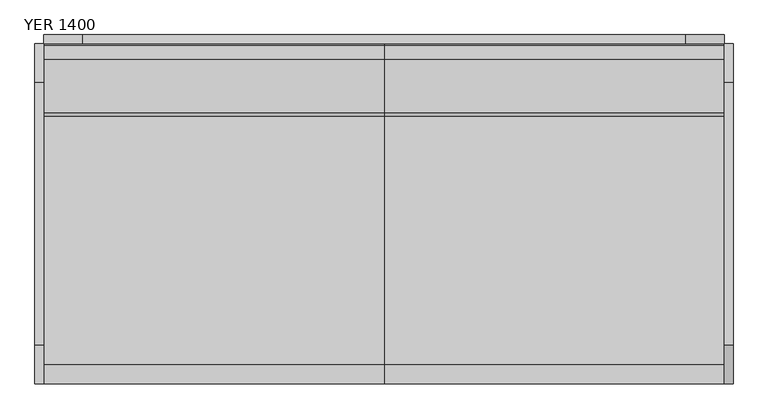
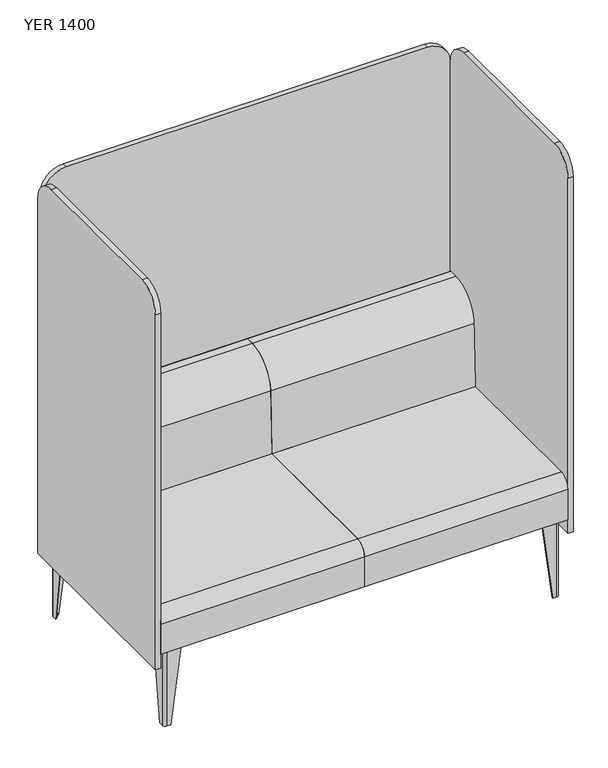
"""IFC4 building model written with IfcOpenShell, lengths in millimetres: furniture geometry, Mobiliário_Mobiliário de Escritório_LinhaYoung_Enclosure (Aço) - YER_Marelli : YER 1400."""

from ifc_helpers import new_model, si_unit, point, frame, frame_2d, origin, origin_with_axes, place, context, project, spatial, polyline, circle_curve, trimmed, segment, composite_curve, outline, extrude, source, transform, mapped, element, save
from ifc_brep_helpers import plane_surface, cylinder_surface, revolved_surface, advanced_brep


def yer_1400_89e6360d(model_context):
    return source(origin(), model_context, "Body", "SolidModel", [
        advanced_brep(
        [(20.0, 75.0, 280.0), (20.0, 25.0, 280.0), (30.0, 15.0, 280.0), (80.0, 15.0, 280.0), (80.0, 18.0, 280.0), (30.0, 18.0, 280.0), (23.0, 25.0, 280.0), (23.0, 75.0, 280.0), (20.0, 39.0, 0.0), (23.0, 39.0, 0.0), (23.0, 25.0, 0.0), (30.0, 18.0, 0.0), (44.0, 18.0, 0.0), (44.0, 15.0, 0.0), (30.0, 15.0, 0.0), (20.0, 25.0, 0.0)],
        [
            (0, 1),
            (1, 2, circle_curve(frame((30.0, 25.0, 280.0), z_axis=(0.0, 0.0, 1.0), x_axis=(0.0, -1.0, 0.0)), 10.0)),
            (2, 3),
            (3, 4),
            (4, 5),
            (5, 6, circle_curve(frame((30.0, 25.0, 280.0), z_axis=(0.0, 0.0, -1.0), x_axis=(-1.0, 0.0, 0.0)), 7.0)),
            (6, 7),
            (7, 0),
            (8, 9),
            (9, 10),
            (10, 11, circle_curve(frame((30.0, 25.0, 0.0), z_axis=(0.0, 0.0, 1.0), x_axis=(-1.0, 0.0, 0.0)), 7.0)),
            (11, 12),
            (12, 13),
            (13, 14),
            (14, 15, circle_curve(frame((30.0, 25.0, 0.0), z_axis=(0.0, 0.0, -1.0), x_axis=(0.0, -1.0, 0.0)), 10.0)),
            (15, 8),
            (15, 1),
            (0, 8),
            (14, 2),
            (13, 3),
            (12, 4),
            (11, 5),
            (10, 6),
            (9, 7),
        ],
        [
            plane_surface(frame((38.25, 33.25, 280.0), z_axis=(0.0, 0.0, 1.0), x_axis=(0.0, -1.0, 0.0))),
            plane_surface(frame((29.25, 24.25, 0.0), z_axis=(0.0, 0.0, -1.0), x_axis=(0.0, -1.0, 0.0))),
            plane_surface(frame((20.0, 32.0, 0.0), z_axis=(-1.0, 0.0, 0.0), x_axis=(0.0, -1.0, 0.0))),
            cylinder_surface(frame((30.0, 25.0, 0.0), z_axis=(0.0, 0.0, 1.0), x_axis=(0.0, -1.0, 0.0)), 10.0),
            plane_surface(frame((37.0, 15.0, 0.0), z_axis=(0.0, -1.0, 0.0), x_axis=(1.0, 0.0, 0.0))),
            plane_surface(frame((44.0, 16.5, 0.0), z_axis=(0.9918357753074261, 0.0, -0.12752174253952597), x_axis=(0.0, 1.0, 0.0))),
            plane_surface(frame((37.0, 18.0, 0.0), z_axis=(0.0, 1.0, 0.0), x_axis=(-1.0, 0.0, 0.0))),
            revolved_surface(polyline([(23.0, 25.0, 280.0), (23.0, 25.0, 0.0)]), (30.0, 25.0, 0.0), (0.0, 0.0, 1.0)),
            plane_surface(frame((23.0, 32.0, 0.0), z_axis=(1.0, 0.0, 0.0), x_axis=(0.0, 1.0, 0.0))),
            plane_surface(frame((21.5, 39.0, 0.0), z_axis=(0.0, 0.9918357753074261, -0.12752174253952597), x_axis=(-1.0, 0.0, 0.0))),
        ],
        [
            (0, [[1, 2, 3, 4, 5, 6, 7, 8]]),
            (1, [[9, 10, 11, 12, 13, 14, 15, 16]]),
            (2, [[-16, 17, -1, 18]]),
            (3, [[-15, 19, -2, -17]]),
            (4, [[-14, 20, -3, -19]]),
            (5, [[-13, 21, -4, -20]]),
            (6, [[-12, 22, -5, -21]]),
            (7, [[-11, 23, -6, -22]]),
            (8, [[-10, 24, -7, -23]]),
            (9, [[-9, -18, -8, -24]]),
        ],
    ),
        advanced_brep(
        [(1380.0, 75.0, 280.0), (1377.0, 75.0, 280.0), (1377.0, 25.0, 280.0), (1370.0, 18.0, 280.0), (1320.0, 18.0, 280.0), (1320.0, 15.0, 280.0), (1370.0, 15.0, 280.0), (1380.0, 25.0, 280.0), (1380.0, 39.0, 0.0), (1380.0, 25.0, 0.0), (1370.0, 15.0, 0.0), (1356.0, 15.0, 0.0), (1356.0, 18.0, 0.0), (1370.0, 18.0, 0.0), (1377.0, 25.0, 0.0), (1377.0, 39.0, 0.0)],
        [
            (0, 1),
            (1, 2),
            (2, 3, circle_curve(frame((1370.0, 25.0, 280.0), z_axis=(0.0, 0.0, -1.0), x_axis=(0.0, -1.0, 0.0)), 7.0)),
            (3, 4),
            (4, 5),
            (5, 6),
            (6, 7, circle_curve(frame((1370.0, 25.0, 280.0), z_axis=(0.0, 0.0, 1.0), x_axis=(1.0, 0.0, 0.0)), 10.0)),
            (7, 0),
            (8, 9),
            (9, 10, circle_curve(frame((1370.0, 25.0, 0.0), z_axis=(0.0, 0.0, -1.0), x_axis=(1.0, 0.0, 0.0)), 10.0)),
            (10, 11),
            (11, 12),
            (12, 13),
            (13, 14, circle_curve(frame((1370.0, 25.0, 0.0), z_axis=(0.0, 0.0, 1.0), x_axis=(0.0, -1.0, 0.0)), 7.0)),
            (14, 15),
            (15, 8),
            (8, 0),
            (7, 9),
            (6, 10),
            (5, 11),
            (4, 12),
            (3, 13),
            (2, 14),
            (1, 15),
        ],
        [
            plane_surface(frame((1361.75, 33.25, 280.0), z_axis=(0.0, 0.0, 1.0), x_axis=(-1.0, 0.0, 0.0))),
            plane_surface(frame((1370.75, 24.25, 0.0), z_axis=(0.0, 0.0, -1.0), x_axis=(-1.0, 0.0, 0.0))),
            plane_surface(frame((1380.0, 32.0, 0.0), z_axis=(1.0, 0.0, 0.0), x_axis=(0.0, 1.0, 0.0))),
            cylinder_surface(frame((1370.0, 25.0, 0.0), z_axis=(0.0, 0.0, 1.0), x_axis=(1.0, 0.0, 0.0)), 10.0),
            plane_surface(frame((1363.0, 15.0, 0.0), z_axis=(0.0, -1.0, 0.0), x_axis=(1.0, 0.0, 0.0))),
            plane_surface(frame((1356.0, 16.5, 0.0), z_axis=(-0.9918357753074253, 0.0, -0.12752174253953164), x_axis=(0.0, -1.0, 0.0))),
            plane_surface(frame((1363.0, 18.0, 0.0), z_axis=(0.0, 1.0, 0.0), x_axis=(-1.0, 0.0, 0.0))),
            revolved_surface(polyline([(1370.0, 18.0, 280.0), (1370.0, 18.0, 0.0)]), (1370.0, 25.0, 0.0), (0.0, 0.0, 1.0)),
            plane_surface(frame((1377.0, 32.0, 0.0), z_axis=(-1.0, 0.0, 0.0), x_axis=(0.0, -1.0, 0.0))),
            plane_surface(frame((1378.5, 39.0, 0.0), z_axis=(0.0, 0.9918357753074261, -0.12752174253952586), x_axis=(-1.0, 0.0, 0.0))),
        ],
        [
            (0, [[1, 2, 3, 4, 5, 6, 7, 8]]),
            (1, [[9, 10, 11, 12, 13, 14, 15, 16]]),
            (2, [[-9, 17, -8, 18]]),
            (3, [[-10, -18, -7, 19]]),
            (4, [[-11, -19, -6, 20]]),
            (5, [[-12, -20, -5, 21]]),
            (6, [[-13, -21, -4, 22]]),
            (7, [[-14, -22, -3, 23]]),
            (8, [[-15, -23, -2, 24]]),
            (9, [[-16, -24, -1, -17]]),
        ],
    ),
        advanced_brep(
        [(20.0, 625.0, 280.0), (23.0, 625.0, 280.0), (23.0, 675.0, 280.0), (30.0, 682.0, 280.0), (80.0, 682.0, 280.0), (80.0, 685.0, 280.0), (30.0, 685.0, 280.0), (20.0, 675.0, 280.0), (20.0, 661.0, 0.0), (20.0, 675.0, 0.0), (30.0, 685.0, 0.0), (44.0, 685.0, 0.0), (44.0, 682.0, 0.0), (30.0, 682.0, 0.0), (23.0, 675.0, 0.0), (23.0, 661.0, 0.0)],
        [
            (0, 1),
            (1, 2),
            (2, 3, circle_curve(frame((30.0, 675.0, 280.0), z_axis=(0.0, 0.0, -1.0), x_axis=(0.0, 1.0, 0.0)), 7.0)),
            (3, 4),
            (4, 5),
            (5, 6),
            (6, 7, circle_curve(frame((30.0, 675.0, 280.0), z_axis=(0.0, 0.0, 1.0), x_axis=(-1.0, 0.0, 0.0)), 10.0)),
            (7, 0),
            (8, 9),
            (9, 10, circle_curve(frame((30.0, 675.0, 0.0), z_axis=(0.0, 0.0, -1.0), x_axis=(-1.0, 0.0, 0.0)), 10.0)),
            (10, 11),
            (11, 12),
            (12, 13),
            (13, 14, circle_curve(frame((30.0, 675.0, 0.0), z_axis=(0.0, 0.0, 1.0), x_axis=(0.0, 1.0, 0.0)), 7.0)),
            (14, 15),
            (15, 8),
            (8, 0),
            (7, 9),
            (6, 10),
            (5, 11),
            (4, 12),
            (3, 13),
            (2, 14),
            (1, 15),
        ],
        [
            plane_surface(frame((38.25, 666.75, 280.0), z_axis=(0.0, 0.0, 1.0), x_axis=(1.0, 0.0, 0.0))),
            plane_surface(frame((29.25, 675.75, 0.0), z_axis=(0.0, 0.0, -1.0), x_axis=(1.0, 0.0, 0.0))),
            plane_surface(frame((20.0, 668.0, 0.0), z_axis=(-1.0, 0.0, 0.0), x_axis=(0.0, -1.0, 0.0))),
            cylinder_surface(frame((30.0, 675.0, 0.0), z_axis=(0.0, 0.0, 1.0), x_axis=(-1.0, 0.0, 0.0)), 10.0),
            plane_surface(frame((37.0, 685.0, 0.0), z_axis=(0.0, 1.0, 0.0), x_axis=(-1.0, 0.0, 0.0))),
            plane_surface(frame((44.0, 683.5, 0.0), z_axis=(0.9918357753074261, 0.0, -0.12752174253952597), x_axis=(0.0, 1.0, 0.0))),
            plane_surface(frame((37.0, 682.0, 0.0), z_axis=(0.0, -1.0, 0.0), x_axis=(1.0, 0.0, 0.0))),
            revolved_surface(polyline([(30.0, 682.0, 280.0), (30.0, 682.0, 0.0)]), (30.0, 675.0, 0.0), (0.0, 0.0, 1.0)),
            plane_surface(frame((23.0, 668.0, 0.0), z_axis=(1.0, 0.0, 0.0), x_axis=(0.0, 1.0, 0.0))),
            plane_surface(frame((21.5, 661.0, 0.0), z_axis=(0.0, -0.9918357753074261, -0.127521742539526), x_axis=(1.0, 0.0, 0.0))),
        ],
        [
            (0, [[1, 2, 3, 4, 5, 6, 7, 8]]),
            (1, [[9, 10, 11, 12, 13, 14, 15, 16]]),
            (2, [[-9, 17, -8, 18]]),
            (3, [[-10, -18, -7, 19]]),
            (4, [[-11, -19, -6, 20]]),
            (5, [[-12, -20, -5, 21]]),
            (6, [[-13, -21, -4, 22]]),
            (7, [[-14, -22, -3, 23]]),
            (8, [[-15, -23, -2, 24]]),
            (9, [[-16, -24, -1, -17]]),
        ],
    ),
        advanced_brep(
        [(1380.0, 625.0, 280.0), (1380.0, 675.0, 280.0), (1370.0, 685.0, 280.0), (1320.0, 685.0, 280.0), (1320.0, 682.0, 280.0), (1370.0, 682.0, 280.0), (1377.0, 675.0, 280.0), (1377.0, 625.0, 280.0), (1380.0, 661.0, 0.0), (1377.0, 661.0, 0.0), (1377.0, 675.0, 0.0), (1370.0, 682.0, 0.0), (1356.0, 682.0, 0.0), (1356.0, 685.0, 0.0), (1370.0, 685.0, 0.0), (1380.0, 675.0, 0.0)],
        [
            (0, 1),
            (1, 2, circle_curve(frame((1370.0, 675.0, 280.0), z_axis=(0.0, 0.0, 1.0), x_axis=(0.0, 1.0, 0.0)), 10.0)),
            (2, 3),
            (3, 4),
            (4, 5),
            (5, 6, circle_curve(frame((1370.0, 675.0, 280.0), z_axis=(0.0, 0.0, -1.0), x_axis=(1.0, 0.0, 0.0)), 7.0)),
            (6, 7),
            (7, 0),
            (8, 9),
            (9, 10),
            (10, 11, circle_curve(frame((1370.0, 675.0, 0.0), z_axis=(0.0, 0.0, 1.0), x_axis=(1.0, 0.0, 0.0)), 7.0)),
            (11, 12),
            (12, 13),
            (13, 14),
            (14, 15, circle_curve(frame((1370.0, 675.0, 0.0), z_axis=(0.0, 0.0, -1.0), x_axis=(0.0, 1.0, 0.0)), 10.0)),
            (15, 8),
            (15, 1),
            (0, 8),
            (14, 2),
            (13, 3),
            (12, 4),
            (11, 5),
            (10, 6),
            (9, 7),
        ],
        [
            plane_surface(frame((1361.75, 666.75, 280.0), z_axis=(0.0, 0.0, 1.0), x_axis=(0.0, 1.0, 0.0))),
            plane_surface(frame((1370.75, 675.75, 0.0), z_axis=(0.0, 0.0, -1.0), x_axis=(0.0, 1.0, 0.0))),
            plane_surface(frame((1380.0, 668.0, 0.0), z_axis=(1.0, 0.0, 0.0), x_axis=(0.0, 1.0, 0.0))),
            cylinder_surface(frame((1370.0, 675.0, 0.0), z_axis=(0.0, 0.0, 1.0), x_axis=(0.0, 1.0, 0.0)), 10.0),
            plane_surface(frame((1363.0, 685.0, 0.0), z_axis=(0.0, 1.0, 0.0), x_axis=(-1.0, 0.0, 0.0))),
            plane_surface(frame((1356.0, 683.5, 0.0), z_axis=(-0.9918357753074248, 0.0, -0.12752174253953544), x_axis=(0.0, -1.0, 0.0))),
            plane_surface(frame((1363.0, 682.0, 0.0), z_axis=(0.0, -1.0, 0.0), x_axis=(1.0, 0.0, 0.0))),
            revolved_surface(polyline([(1377.0, 675.0, 280.0), (1377.0, 675.0, 0.0)]), (1370.0, 675.0, 0.0), (0.0, 0.0, 1.0)),
            plane_surface(frame((1377.0, 668.0, 0.0), z_axis=(-1.0, 0.0, 0.0), x_axis=(0.0, -1.0, 0.0))),
            plane_surface(frame((1378.5, 661.0, 0.0), z_axis=(0.0, -0.9918357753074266, -0.12752174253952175), x_axis=(1.0, 0.0, 0.0))),
        ],
        [
            (0, [[1, 2, 3, 4, 5, 6, 7, 8]]),
            (1, [[9, 10, 11, 12, 13, 14, 15, 16]]),
            (2, [[-16, 17, -1, 18]]),
            (3, [[-15, 19, -2, -17]]),
            (4, [[-14, 20, -3, -19]]),
            (5, [[-13, 21, -4, -20]]),
            (6, [[-12, 22, -5, -21]]),
            (7, [[-11, 23, -6, -22]]),
            (8, [[-10, 24, -7, -23]]),
            (9, [[-9, -18, -8, -24]]),
        ],
    ),
        extrude(outline(composite_curve([segment(polyline([(23.0, 39.0), (44.0, 18.0), (30.0, 18.0)]), True, "CONTINUOUS"), segment(trimmed(circle_curve(frame_2d((30.0, 25.0)), 7.0), [point((30.0, 18.0))], [point((23.0, 25.0))], False, "CARTESIAN"), True, "CONTINUOUS"), segment(polyline([(23.0, 25.0), (23.0, 39.0)]), True, "CONTINUOUS")], self_intersect=False)), origin_with_axes(), (0.0, 0.0, 1.0), 1.0),
        extrude(outline(composite_curve([segment(polyline([(23.0, 661.0), (23.0, 675.0)]), True, "CONTINUOUS"), segment(trimmed(circle_curve(frame_2d((30.0, 675.0)), 7.0), [point((23.0, 675.0))], [point((30.0, 682.0))], False, "CARTESIAN"), True, "CONTINUOUS"), segment(polyline([(30.0, 682.0), (44.0, 682.0), (23.0, 661.0)]), True, "CONTINUOUS")], self_intersect=False)), origin_with_axes(), (0.0, 0.0, 1.0), 1.0),
        extrude(outline(composite_curve([segment(polyline([(1377.0, 39.0), (1377.0, 25.0)]), True, "CONTINUOUS"), segment(trimmed(circle_curve(frame_2d((1370.0, 25.0)), 7.0), [point((1377.0, 25.0))], [point((1370.0, 18.0))], False, "CARTESIAN"), True, "CONTINUOUS"), segment(polyline([(1370.0, 18.0), (1356.0, 18.0), (1377.0, 39.0)]), True, "CONTINUOUS")], self_intersect=False)), origin_with_axes(), (0.0, 0.0, 1.0), 1.0),
        extrude(outline(composite_curve([segment(polyline([(1377.0, 661.0), (1356.0, 682.0), (1370.0, 682.0)]), True, "CONTINUOUS"), segment(trimmed(circle_curve(frame_2d((1370.0, 675.0)), 7.0), [point((1370.0, 682.0))], [point((1377.0, 675.0))], False, "CARTESIAN"), True, "CONTINUOUS"), segment(polyline([(1377.0, 675.0), (1377.0, 661.0)]), True, "CONTINUOUS")], self_intersect=False)), origin_with_axes(), (0.0, 0.0, 1.0), 1.0),
        extrude(outline(composite_curve([segment(trimmed(circle_curve(frame_2d((30.0, 25.0)), 7.0), [point((30.0, 18.0))], [point((23.0, 25.0))], False, "CARTESIAN"), True, "CONTINUOUS"), segment(polyline([(23.0, 25.0), (23.0, 93.0)]), True, "CONTINUOUS"), segment(trimmed(circle_curve(frame_2d((28.0, 93.0)), 5.0), [point((23.0, 93.0))], [point((28.0, 98.0))], False, "CARTESIAN"), True, "CONTINUOUS"), segment(polyline([(28.0, 98.0), (51.9545624, 98.0)]), True, "CONTINUOUS"), segment(trimmed(circle_curve(frame_2d((52.6241051, 89.931755)), 8.0959783), [point((51.9545624, 98.0))], [point((58.520382, 95.479618))], False, "CARTESIAN"), True, "CONTINUOUS"), segment(polyline([(58.520382, 95.479618), (100.479618, 53.520382)]), True, "CONTINUOUS"), segment(trimmed(circle_curve(frame_2d((94.931755, 47.6241051)), 8.0959783), [point((100.479618, 53.520382))], [point((103.0, 46.9545624))], False, "CARTESIAN"), True, "CONTINUOUS"), segment(polyline([(103.0, 46.9545624), (103.0, 23.0)]), True, "CONTINUOUS"), segment(trimmed(circle_curve(frame_2d((98.0, 23.0)), 5.0), [point((103.0, 23.0))], [point((98.0, 18.0))], False, "CARTESIAN"), True, "CONTINUOUS"), segment(polyline([(98.0, 18.0), (30.0, 18.0)]), True, "CONTINUOUS")], self_intersect=False)), frame((0.0, 0.0, 279.0), z_axis=(0.0, 0.0, 1.0), x_axis=(1.0, 0.0, 0.0)), (0.0, 0.0, 1.0), 1.0),
        extrude(outline(composite_curve([segment(polyline([(30.0, 682.0), (98.0, 682.0)]), True, "CONTINUOUS"), segment(trimmed(circle_curve(frame_2d((98.0, 677.0)), 5.0), [point((98.0, 682.0))], [point((103.0, 677.0))], False, "CARTESIAN"), True, "CONTINUOUS"), segment(polyline([(103.0, 677.0), (103.0, 653.0454376)]), True, "CONTINUOUS"), segment(trimmed(circle_curve(frame_2d((94.931755, 652.3758949)), 8.0959783), [point((103.0, 653.0454376))], [point((100.479618, 646.479618))], False, "CARTESIAN"), True, "CONTINUOUS"), segment(polyline([(100.479618, 646.479618), (58.520382, 604.520382)]), True, "CONTINUOUS"), segment(trimmed(circle_curve(frame_2d((52.6241051, 610.068245)), 8.0959783), [point((58.520382, 604.520382))], [point((51.9545624, 602.0))], False, "CARTESIAN"), True, "CONTINUOUS"), segment(polyline([(51.9545624, 602.0), (28.0, 602.0)]), True, "CONTINUOUS"), segment(trimmed(circle_curve(frame_2d((28.0, 607.0)), 5.0), [point((28.0, 602.0))], [point((23.0, 607.0))], False, "CARTESIAN"), True, "CONTINUOUS"), segment(polyline([(23.0, 607.0), (23.0, 675.0)]), True, "CONTINUOUS"), segment(trimmed(circle_curve(frame_2d((30.0, 675.0)), 7.0), [point((23.0, 675.0))], [point((30.0, 682.0))], False, "CARTESIAN"), True, "CONTINUOUS")], self_intersect=False)), frame((0.0, 0.0, 279.0), z_axis=(0.0, 0.0, 1.0), x_axis=(1.0, 0.0, 0.0)), (0.0, 0.0, 1.0), 1.0),
        extrude(outline(composite_curve([segment(polyline([(1370.0, 18.0), (1302.0, 18.0)]), True, "CONTINUOUS"), segment(trimmed(circle_curve(frame_2d((1302.0, 23.0)), 5.0), [point((1302.0, 18.0))], [point((1297.0, 23.0))], False, "CARTESIAN"), True, "CONTINUOUS"), segment(polyline([(1297.0, 23.0), (1297.0, 46.9545624)]), True, "CONTINUOUS"), segment(trimmed(circle_curve(frame_2d((1305.068245, 47.6241051)), 8.0959783), [point((1297.0, 46.9545624))], [point((1299.520382, 53.520382))], False, "CARTESIAN"), True, "CONTINUOUS"), segment(polyline([(1299.520382, 53.520382), (1341.479618, 95.479618)]), True, "CONTINUOUS"), segment(trimmed(circle_curve(frame_2d((1347.3758949, 89.931755)), 8.0959783), [point((1341.479618, 95.479618))], [point((1348.0454376, 98.0))], False, "CARTESIAN"), True, "CONTINUOUS"), segment(polyline([(1348.0454376, 98.0), (1372.0, 98.0)]), True, "CONTINUOUS"), segment(trimmed(circle_curve(frame_2d((1372.0, 93.0)), 5.0), [point((1372.0, 98.0))], [point((1377.0, 93.0))], False, "CARTESIAN"), True, "CONTINUOUS"), segment(polyline([(1377.0, 93.0), (1377.0, 25.0)]), True, "CONTINUOUS"), segment(trimmed(circle_curve(frame_2d((1370.0, 25.0)), 7.0), [point((1377.0, 25.0))], [point((1370.0, 18.0))], False, "CARTESIAN"), True, "CONTINUOUS")], self_intersect=False)), frame((0.0, 0.0, 279.0), z_axis=(0.0, 0.0, 1.0), x_axis=(1.0, 0.0, 0.0)), (0.0, 0.0, 1.0), 1.0),
        extrude(outline(composite_curve([segment(trimmed(circle_curve(frame_2d((1370.0, 675.0)), 7.0), [point((1370.0, 682.0))], [point((1377.0, 675.0))], False, "CARTESIAN"), True, "CONTINUOUS"), segment(polyline([(1377.0, 675.0), (1377.0, 607.0)]), True, "CONTINUOUS"), segment(trimmed(circle_curve(frame_2d((1372.0, 607.0)), 5.0), [point((1377.0, 607.0))], [point((1372.0, 602.0))], False, "CARTESIAN"), True, "CONTINUOUS"), segment(polyline([(1372.0, 602.0), (1348.0454376, 602.0)]), True, "CONTINUOUS"), segment(trimmed(circle_curve(frame_2d((1347.3758949, 610.068245)), 8.0959783), [point((1348.0454376, 602.0))], [point((1341.479618, 604.520382))], False, "CARTESIAN"), True, "CONTINUOUS"), segment(polyline([(1341.479618, 604.520382), (1299.520382, 646.479618)]), True, "CONTINUOUS"), segment(trimmed(circle_curve(frame_2d((1305.068245, 652.3758949)), 8.0959783), [point((1299.520382, 646.479618))], [point((1297.0, 653.0454376))], False, "CARTESIAN"), True, "CONTINUOUS"), segment(polyline([(1297.0, 653.0454376), (1297.0, 677.0)]), True, "CONTINUOUS"), segment(trimmed(circle_curve(frame_2d((1302.0, 677.0)), 5.0), [point((1297.0, 677.0))], [point((1302.0, 682.0))], False, "CARTESIAN"), True, "CONTINUOUS"), segment(polyline([(1302.0, 682.0), (1370.0, 682.0)]), True, "CONTINUOUS")], self_intersect=False)), frame((0.0, 0.0, 279.0), z_axis=(0.0, 0.0, 1.0), x_axis=(1.0, 0.0, 0.0)), (0.0, 0.0, 1.0), 1.0),
        extrude(outline(composite_curve([segment(polyline([(550.0, 430.0), (550.0, 280.0), (0.0, 280.0), (0.0, 390.0)]), True, "CONTINUOUS"), segment(trimmed(circle_curve(frame_2d((40.0, 390.0)), 40.0), [point((0.0, 390.0))], [point((40.0, 430.0))], False, "CARTESIAN"), True, "CONTINUOUS"), segment(polyline([(40.0, 430.0), (550.0, 430.0)]), True, "CONTINUOUS")], self_intersect=False)), frame((0.0, 0.0, 0.0), z_axis=(1.0, 0.0, 0.0), x_axis=(0.0, 1.0, 0.0)), (0.0, 0.0, 1.0), 700.0),
        extrude(outline(composite_curve([segment(polyline([(550.0, 430.0), (550.0, 280.0), (0.0, 280.0), (0.0, 390.0)]), True, "CONTINUOUS"), segment(trimmed(circle_curve(frame_2d((40.0, 390.0)), 40.0), [point((0.0, 390.0))], [point((40.0, 430.0))], False, "CARTESIAN"), True, "CONTINUOUS"), segment(polyline([(40.0, 430.0), (550.0, 430.0)]), True, "CONTINUOUS")], self_intersect=False)), frame((700.0, 0.0, 0.0), z_axis=(1.0, 0.0, 0.0), x_axis=(0.0, 1.0, 0.0)), (0.0, 0.0, 1.0), 700.0),
        extrude(outline(composite_curve([segment(polyline([(700.0, 756.802426), (700.0, 280.0), (550.0, 280.0), (550.0, 430.0), (558.2568376, 654.223651)]), True, "CONTINUOUS"), segment(trimmed(circle_curve(frame_2d((668.0, 650.1824561)), 109.8175439), [point((558.2568376, 654.223651))], [point((668.0, 760.0))], False, "CARTESIAN"), True, "CONTINUOUS"), segment(polyline([(668.0, 760.0), (696.802426, 760.0)]), True, "CONTINUOUS"), segment(trimmed(circle_curve(frame_2d((696.802426, 756.802426)), 3.197574), [point((696.802426, 760.0))], [point((700.0, 756.802426))], False, "CARTESIAN"), True, "CONTINUOUS")], self_intersect=False)), frame((0.0, 0.0, 0.0), z_axis=(1.0, 0.0, 0.0), x_axis=(0.0, 1.0, 0.0)), (0.0, 0.0, 1.0), 700.0),
        extrude(outline(composite_curve([segment(polyline([(700.0, 756.802426), (700.0, 280.0), (550.0, 280.0), (550.0, 430.0), (558.2568376, 654.223651)]), True, "CONTINUOUS"), segment(trimmed(circle_curve(frame_2d((668.0, 650.1824561)), 109.8175439), [point((558.2568376, 654.223651))], [point((668.0, 760.0))], False, "CARTESIAN"), True, "CONTINUOUS"), segment(polyline([(668.0, 760.0), (696.802426, 760.0)]), True, "CONTINUOUS"), segment(trimmed(circle_curve(frame_2d((696.802426, 756.802426)), 3.197574), [point((696.802426, 760.0))], [point((700.0, 756.802426))], False, "CARTESIAN"), True, "CONTINUOUS")], self_intersect=False)), frame((700.0, 0.0, 0.0), z_axis=(1.0, 0.0, 0.0), x_axis=(0.0, 1.0, 0.0)), (0.0, 0.0, 1.0), 700.0),
        extrude(outline(composite_curve([segment(trimmed(circle_curve(frame_2d((620.0, 1520.0)), 80.0), [point((620.0, 1600.0))], [point((700.0, 1520.0))], False, "CARTESIAN"), True, "CONTINUOUS"), segment(polyline([(700.0, 1520.0), (700.0, 230.0), (0.0, 230.0), (0.0, 1520.0)]), True, "CONTINUOUS"), segment(trimmed(circle_curve(frame_2d((80.0, 1520.0)), 80.0), [point((0.0, 1520.0))], [point((80.0, 1600.0))], False, "CARTESIAN"), True, "CONTINUOUS"), segment(polyline([(80.0, 1600.0), (620.0, 1600.0)]), True, "CONTINUOUS")], self_intersect=False)), frame((1400.0, 0.0, 0.0), z_axis=(1.0, 0.0, 0.0), x_axis=(0.0, 1.0, 0.0)), (0.0, 0.0, 1.0), 18.0),
        extrude(outline(composite_curve([segment(polyline([(1600.0, 1320.0), (1600.0, 80.0)]), True, "CONTINUOUS"), segment(trimmed(circle_curve(frame_2d((1520.0, 80.0)), 80.0), [point((1600.0, 80.0))], [point((1520.0, 0.0))], False, "CARTESIAN"), True, "CONTINUOUS"), segment(polyline([(1520.0, 0.0), (230.0, 0.0), (230.0, 1400.0), (1520.0, 1400.0)]), True, "CONTINUOUS"), segment(trimmed(circle_curve(frame_2d((1520.0, 1320.0)), 80.0), [point((1520.0, 1400.0))], [point((1600.0, 1320.0))], False, "CARTESIAN"), True, "CONTINUOUS")], self_intersect=False)), frame((0.0, 700.0, 0.0), z_axis=(0.0, 1.0, 0.0), x_axis=(0.0, 0.0, 1.0)), (0.0, 0.0, 1.0), 18.0),
        extrude(outline(composite_curve([segment(trimmed(circle_curve(frame_2d((620.0, 1520.0)), 80.0), [point((620.0, 1600.0))], [point((700.0, 1520.0))], False, "CARTESIAN"), True, "CONTINUOUS"), segment(polyline([(700.0, 1520.0), (700.0, 230.0), (0.0, 230.0), (0.0, 1520.0)]), True, "CONTINUOUS"), segment(trimmed(circle_curve(frame_2d((80.0, 1520.0)), 80.0), [point((0.0, 1520.0))], [point((80.0, 1600.0))], False, "CARTESIAN"), True, "CONTINUOUS"), segment(polyline([(80.0, 1600.0), (620.0, 1600.0)]), True, "CONTINUOUS")], self_intersect=False)), frame((-18.0, 0.0, 0.0), z_axis=(1.0, 0.0, 0.0), x_axis=(0.0, 1.0, 0.0)), (0.0, 0.0, 1.0), 18.0),
    ])


if __name__ == "__main__":
    model = new_model("IFC4")
    model_context = context("Model", 3, world=origin())
    ifc_project = project(units=[si_unit("LENGTHUNIT", "METRE", prefix="MILLI")], contexts=[model_context])
    site = spatial("IfcSite", under=ifc_project)
    building = spatial("IfcBuilding", under=site)
    placement = place(None, origin())
    yer_1400_shape = yer_1400_89e6360d(model_context)
    element("IfcFurniture", 1, ObjectType="Mobiliário_Mobiliário de Escritório_LinhaYoung_Enclosure (Aço) - YER_Marelli : YER 1400", at=placement, inside=building, context=model_context, shape_type="MappedRepresentation", body=[
        mapped(yer_1400_shape, transform((0.0, 0.0, 0.0), x_axis=(1.0, 0.0, 0.0), y_axis=(0.0, 1.0, 0.0), z_axis=(0.0, 0.0, 1.0))),
    ])
    save(model, "model.ifc")
